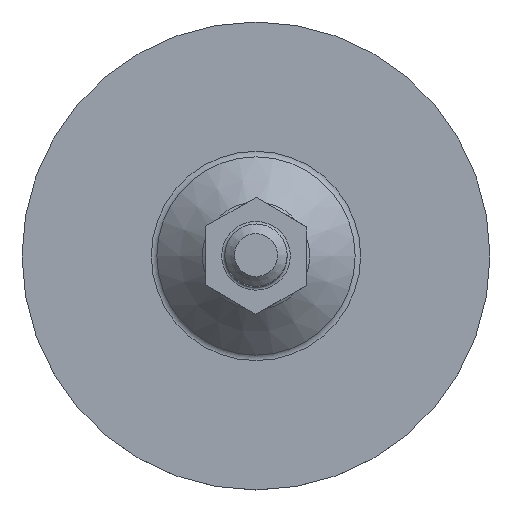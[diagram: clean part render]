
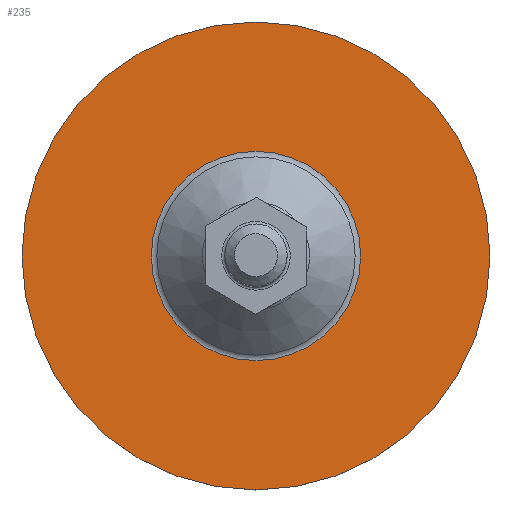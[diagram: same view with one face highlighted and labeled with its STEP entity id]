
A CAD part, top view. The second image highlights one B-rep face of the part: STEP entity #235.
In plain terms, the highlighted planar face has unit normal (0, 0, 1).
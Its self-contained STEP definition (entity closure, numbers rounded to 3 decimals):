
#235=ADVANCED_FACE('',(#373,#375),#377,.T.);
#373=FACE_BOUND('',#374,.T.);
#374=EDGE_LOOP('',(#925));
#375=FACE_BOUND('',#376,.T.);
#376=EDGE_LOOP('',(#926));
#377=PLANE('',#378);
#378=AXIS2_PLACEMENT_3D('',#379,#380,#381);
#379=CARTESIAN_POINT('',(0.,0.,2.));
#380=DIRECTION('',(0.,0.,1.));
#381=DIRECTION('',(-1.,0.,0.));
#925=ORIENTED_EDGE('',*,*,#1130,.T.);
#926=ORIENTED_EDGE('',*,*,#1128,.F.);
#1128=EDGE_CURVE('',#1244,#1244,#1245,.T.);
#1130=EDGE_CURVE('',#1248,#1248,#1249,.T.);
#1244=VERTEX_POINT('',#1459);
#1245=CIRCLE('',#1460,13.414);
#1248=VERTEX_POINT('',#1469);
#1249=CIRCLE('',#1470,30.);
#1459=CARTESIAN_POINT('',(-13.414,0.,2.));
#1460=AXIS2_PLACEMENT_3D('',#1461,#1462,#1463);
#1461=CARTESIAN_POINT('',(0.,0.,2.));
#1462=DIRECTION('',(0.,0.,1.));
#1463=DIRECTION('',(-1.,0.,0.));
#1469=CARTESIAN_POINT('',(-30.,0.,2.));
#1470=AXIS2_PLACEMENT_3D('',#1471,#1472,#1473);
#1471=CARTESIAN_POINT('',(0.,0.,2.));
#1472=DIRECTION('',(0.,0.,1.));
#1473=DIRECTION('',(-1.,0.,0.));
